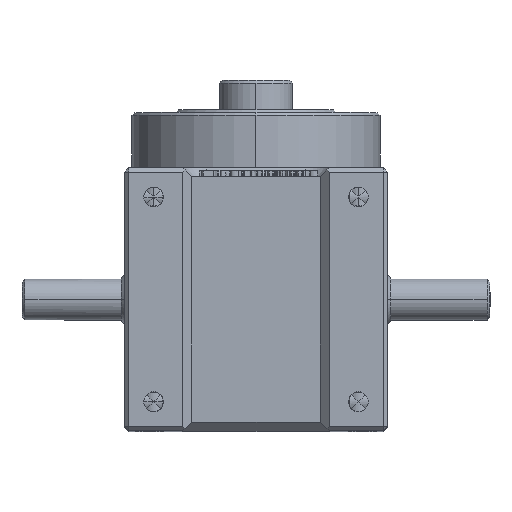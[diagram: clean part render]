
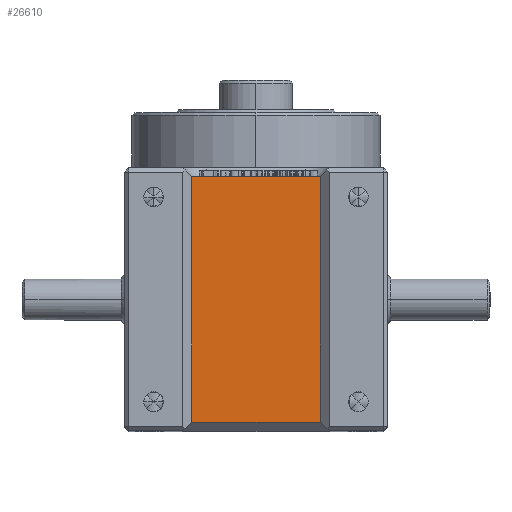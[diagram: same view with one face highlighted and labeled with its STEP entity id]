
A CAD part, top view. The second image highlights one B-rep face of the part: STEP entity #26610.
In plain terms, the highlighted planar face has unit normal (0, 0, 1).
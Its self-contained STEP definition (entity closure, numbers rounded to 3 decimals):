
#2128 = EDGE_CURVE ( 'NONE', #143089, #86813, #62771, .T. ) ;
#5626 = CARTESIAN_POINT ( 'NONE',  ( 17., 87., 82. ) ) ;
#5721 = AXIS2_PLACEMENT_3D ( 'NONE', #46208, #117352, #174946 ) ;
#7194 = EDGE_LOOP ( 'NONE', ( #155105, #118065, #160022, #174331 ) ) ;
#24839 = VECTOR ( 'NONE', #101072, 1000. ) ;
#26610 = ADVANCED_FACE ( 'NONE', ( #27228 ), #160557, .F. ) ;
#26913 = CARTESIAN_POINT ( 'NONE',  ( -22., 3., 82. ) ) ;
#27228 = FACE_OUTER_BOUND ( 'NONE', #7194, .T. ) ;
#33974 = LINE ( 'NONE', #167707, #42954 ) ;
#42954 = VECTOR ( 'NONE', #53362, 1000. ) ;
#44094 = VERTEX_POINT ( 'NONE', #97951 ) ;
#46208 = CARTESIAN_POINT ( 'NONE',  ( 0., 0., 82. ) ) ;
#53362 = DIRECTION ( 'NONE',  ( 1., 0., 0. ) ) ;
#62771 = LINE ( 'NONE', #143528, #24839 ) ;
#66518 = EDGE_CURVE ( 'NONE', #86813, #108127, #82316, .T. ) ;
#75643 = VECTOR ( 'NONE', #146008, 1000. ) ;
#82316 = LINE ( 'NONE', #5626, #149276 ) ;
#84815 = EDGE_CURVE ( 'NONE', #44094, #108127, #113557, .T. ) ;
#86813 = VERTEX_POINT ( 'NONE', #159356 ) ;
#91094 = DIRECTION ( 'NONE',  ( 1., 0., 0. ) ) ;
#97951 = CARTESIAN_POINT ( 'NONE',  ( 22., 3., 82. ) ) ;
#101072 = DIRECTION ( 'NONE',  ( 0., 1., 0. ) ) ;
#108127 = VERTEX_POINT ( 'NONE', #185305 ) ;
#113557 = LINE ( 'NONE', #131629, #75643 ) ;
#117352 = DIRECTION ( 'NONE',  ( 0., 0., -1. ) ) ;
#118065 = ORIENTED_EDGE ( 'NONE', *, *, #2128, .F. ) ;
#131629 = CARTESIAN_POINT ( 'NONE',  ( 22., 90., 82. ) ) ;
#131808 = EDGE_CURVE ( 'NONE', #143089, #44094, #33974, .T. ) ;
#143089 = VERTEX_POINT ( 'NONE', #26913 ) ;
#143528 = CARTESIAN_POINT ( 'NONE',  ( -22., 0., 82. ) ) ;
#146008 = DIRECTION ( 'NONE',  ( 0., 1., 0. ) ) ;
#149276 = VECTOR ( 'NONE', #91094, 1000. ) ;
#155105 = ORIENTED_EDGE ( 'NONE', *, *, #66518, .F. ) ;
#159356 = CARTESIAN_POINT ( 'NONE',  ( -22., 87., 82. ) ) ;
#160022 = ORIENTED_EDGE ( 'NONE', *, *, #131808, .T. ) ;
#160557 = PLANE ( 'NONE',  #5721 ) ;
#167707 = CARTESIAN_POINT ( 'NONE',  ( -25., 3., 82. ) ) ;
#174331 = ORIENTED_EDGE ( 'NONE', *, *, #84815, .T. ) ;
#174946 = DIRECTION ( 'NONE',  ( -1., 0., 0. ) ) ;
#185305 = CARTESIAN_POINT ( 'NONE',  ( 22., 87., 82. ) ) ;
